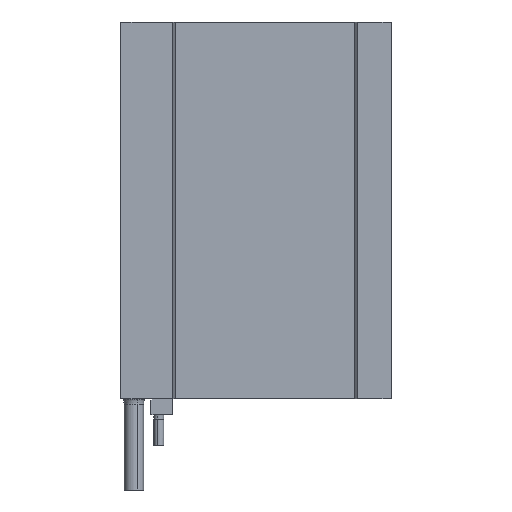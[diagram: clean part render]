
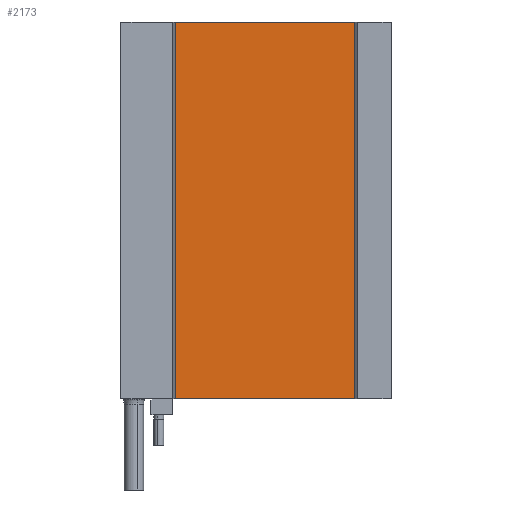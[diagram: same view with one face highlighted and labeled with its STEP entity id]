
A CAD part, left-side view. The second image highlights one B-rep face of the part: STEP entity #2173.
In plain terms, the highlighted planar face has unit normal (-1, 0, 0).
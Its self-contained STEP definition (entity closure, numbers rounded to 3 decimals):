
#23 = FACE_OUTER_BOUND ( 'NONE', #6713, .T. ) ;
#92 = CARTESIAN_POINT ( 'NONE',  ( 66.6, 298.704, 425.517 ) ) ;
#238 = VERTEX_POINT ( 'NONE', #5817 ) ;
#569 = CARTESIAN_POINT ( 'NONE',  ( 66.6, 231.204, 425.517 ) ) ;
#1221 = ORIENTED_EDGE ( 'NONE', *, *, #5814, .F. ) ;
#1276 = LINE ( 'NONE', #569, #4908 ) ;
#1356 = CARTESIAN_POINT ( 'NONE',  ( 66.6, 300.204, 280.517 ) ) ;
#1488 = EDGE_CURVE ( 'NONE', #2970, #4423, #6478, .T. ) ;
#1645 = VERTEX_POINT ( 'NONE', #2117 ) ;
#2117 = CARTESIAN_POINT ( 'NONE',  ( 66.6, 231.204, 280.517 ) ) ;
#2173 = ADVANCED_FACE ( 'NONE', ( #23 ), #3831, .F. ) ;
#2539 = DIRECTION ( 'NONE',  ( 1., 0., 0. ) ) ;
#2644 = ORIENTED_EDGE ( 'NONE', *, *, #6455, .F. ) ;
#2685 = DIRECTION ( 'NONE',  ( 0., 0., -1. ) ) ;
#2970 = VERTEX_POINT ( 'NONE', #3080 ) ;
#3010 = DIRECTION ( 'NONE',  ( 0., 0., -1. ) ) ;
#3031 = CARTESIAN_POINT ( 'NONE',  ( 66.6, 298.704, 280.517 ) ) ;
#3080 = CARTESIAN_POINT ( 'NONE',  ( 66.6, 300.204, 280.517 ) ) ;
#3651 = VECTOR ( 'NONE', #6139, 1000. ) ;
#3690 = EDGE_CURVE ( 'NONE', #2970, #1645, #3924, .T. ) ;
#3831 = PLANE ( 'NONE',  #5511 ) ;
#3924 = LINE ( 'NONE', #3031, #3651 ) ;
#4070 = LINE ( 'NONE', #5592, #5676 ) ;
#4423 = VERTEX_POINT ( 'NONE', #6053 ) ;
#4437 = DIRECTION ( 'NONE',  ( 0., 0., 1. ) ) ;
#4891 = ORIENTED_EDGE ( 'NONE', *, *, #3690, .T. ) ;
#4908 = VECTOR ( 'NONE', #2685, 1000. ) ;
#5261 = VECTOR ( 'NONE', #4437, 1000. ) ;
#5511 = AXIS2_PLACEMENT_3D ( 'NONE', #92, #2539, #3010 ) ;
#5592 = CARTESIAN_POINT ( 'NONE',  ( 66.6, 298.704, 425.517 ) ) ;
#5676 = VECTOR ( 'NONE', #6132, 1000. ) ;
#5760 = ORIENTED_EDGE ( 'NONE', *, *, #1488, .F. ) ;
#5814 = EDGE_CURVE ( 'NONE', #238, #1645, #1276, .T. ) ;
#5817 = CARTESIAN_POINT ( 'NONE',  ( 66.6, 231.204, 425.517 ) ) ;
#6053 = CARTESIAN_POINT ( 'NONE',  ( 66.6, 300.204, 425.517 ) ) ;
#6132 = DIRECTION ( 'NONE',  ( 0., -1., 0. ) ) ;
#6139 = DIRECTION ( 'NONE',  ( 0., -1., 0. ) ) ;
#6455 = EDGE_CURVE ( 'NONE', #4423, #238, #4070, .T. ) ;
#6478 = LINE ( 'NONE', #1356, #5261 ) ;
#6713 = EDGE_LOOP ( 'NONE', ( #4891, #1221, #2644, #5760 ) ) ;
